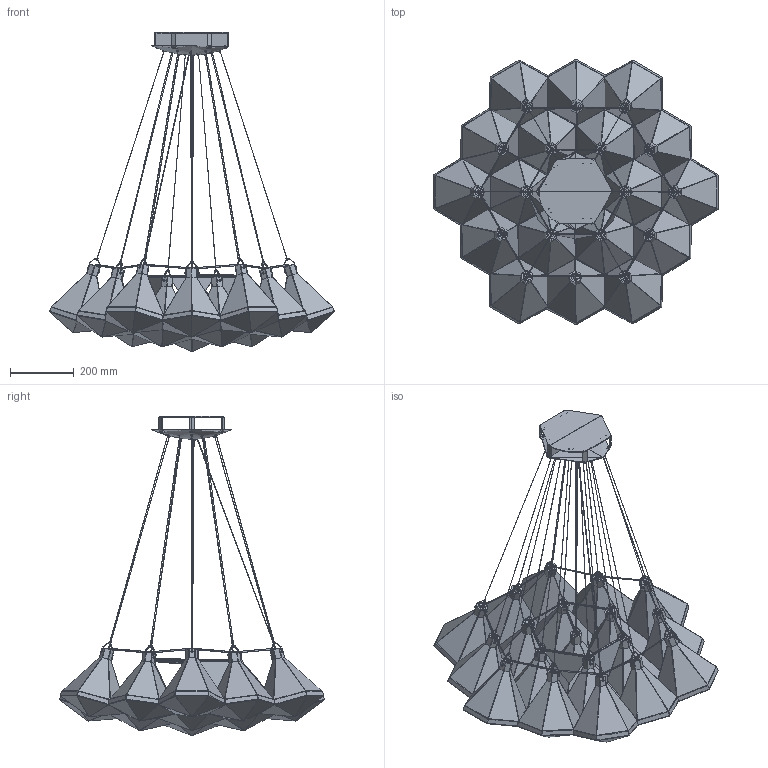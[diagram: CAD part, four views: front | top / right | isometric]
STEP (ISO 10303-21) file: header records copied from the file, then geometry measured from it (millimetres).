
FILE_DESCRIPTION(/* description */ (''),/* implementation_level */ '2;1');
FILE_NAME(/* name */ 'FACET1~1',/* time_stamp */ '2017-11-13T13:35:58+01:00',/* author */ (''),/* organization */ (''),/* preprocessor_version */ 'ST-DEVELOPER v15',/* originating_system */ '',/* authorisation */ '');
FILE_SCHEMA (('AUTOMOTIVE_DESIGN'));
Products named in the file (4): Document; Block 01; Block 02; Block 03
Assembly tree (3 placements, depth 2):
  Document
    Block 01
    Block 02
    Block 03
Bounding box: 894.33 x 831.55 x 999.88 mm (x, y, z)
Topology: 131 solids, 165 shells, 5769 faces, 15500 edges, 9888 vertices
Faces by surface type: bspline 3445, plane 2324
Entity records: 248157 total; most frequent: CARTESIAN_POINT 156381, ORIENTED_EDGE 30349, EDGE_CURVE 15253, VERTEX_POINT 9895, B_SPLINE_CURVE_WITH_KNOTS 8471, EDGE_LOOP 6388, ADVANCED_FACE 5769, FACE_OUTER_BOUND 5769
